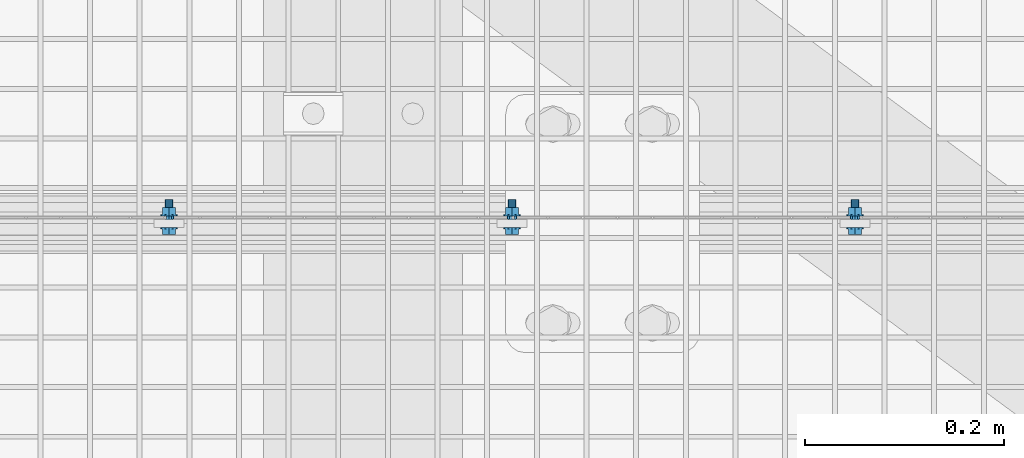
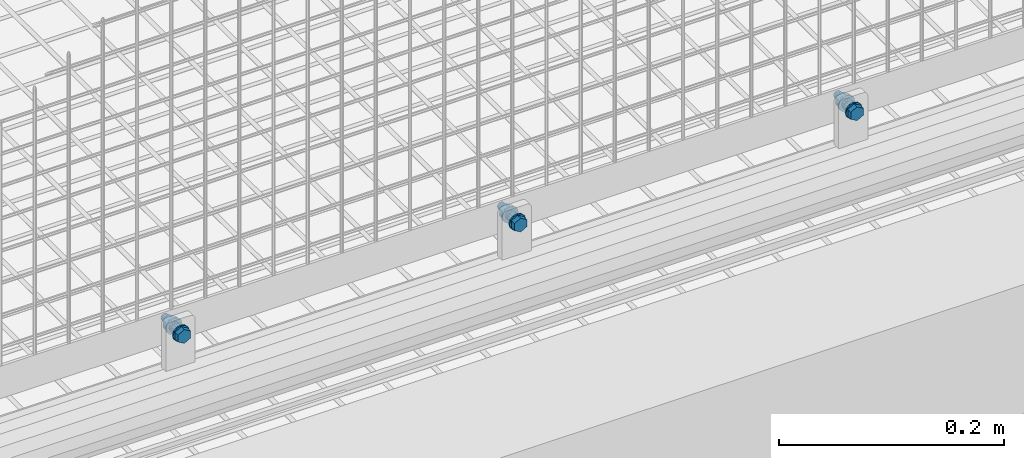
# One storey, part 71 of 1530: 3 mechanical fasteners.
"""IFC2X3 building model written with IfcOpenShell, lengths in millimetres."""

from ifc_helpers import new_model, si_unit, frame, origin_with_axes, place, context, subcontext, project, spatial, faceted_brep, source, transform, mapped, material, type_object, element, save


model = new_model("IFC2X3")

# Units and contexts
model_context = context("Model", 3, precision=1e-05, world=origin_with_axes())
body_context = subcontext(model_context, "Body", "Model", "MODEL_VIEW")
ifc_project = project(units=[si_unit("LENGTHUNIT", "METRE", prefix="MILLI"), si_unit("AREAUNIT", "SQUARE_METRE"), si_unit("VOLUMEUNIT", "CUBIC_METRE"), si_unit("MASSUNIT", "GRAM", prefix="KILO"), si_unit("TIMEUNIT", "SECOND"), si_unit("PLANEANGLEUNIT", "RADIAN"), si_unit("SOLIDANGLEUNIT", "STERADIAN"), si_unit("THERMODYNAMICTEMPERATUREUNIT", "DEGREE_CELSIUS"), si_unit("LUMINOUSINTENSITYUNIT", "LUMEN")], contexts=[model_context])

# Site, building, storey
site_placement = place(None, origin_with_axes())
site = spatial("IfcSite", under=ifc_project, at=site_placement, Name="Brattvåg", CompositionType="ELEMENT")
building_placement = place(site_placement, origin_with_axes())
building = spatial("IfcBuilding", under=site, at=building_placement, Name="Undefined", CompositionType="ELEMENT")
storey_placement = place(building_placement, origin_with_axes())
storey = spatial("IfcBuildingStorey", under=building, at=storey_placement, Name="Undefined", CompositionType="ELEMENT", Elevation=0.0)

# Mechanical fasteners
ifc_material = material(Name="8")
mechanical_fastener_type = type_object("IfcMechanicalFastenerType", Name="Bolt assembly")
shared_shape_1 = source(origin_with_axes(), body_context, "Body", "Brep", [
    faceted_brep([(7.50555349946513, -6.899000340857, 0.0), (3.75277674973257, -6.899000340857, 6.5), (-3.75277674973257, -6.899000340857, 6.5), (-7.50555349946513, -6.899000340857, 9.19165206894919e-16), (-3.75277674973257, -6.899000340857, -6.5), (3.75277674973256, -6.899000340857, -6.5), (3.75277674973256, -1.59900015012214, -6.5), (-3.75277674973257, -1.59900015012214, -6.5), (-7.50555349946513, -1.59900015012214, 9.19165206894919e-16), (-3.75277674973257, -1.59900015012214, 6.5), (3.75277674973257, -1.59900015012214, 6.5), (7.50555349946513, -1.59900015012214, 0.0), (4.0, -1.59900015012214, 0.0), (3.46410161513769, -1.59900015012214, 2.00000000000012), (1.99999999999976, -1.59900015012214, 3.46410161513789), (-4.14534392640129e-13, -1.59900015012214, 4.0), (-2.00000000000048, -1.59900015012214, 3.46410161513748), (-3.4641016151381, -1.59900015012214, 1.9999999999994), (-4.0, -1.59900015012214, -8.29068785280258e-13), (-3.46410161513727, -1.59900015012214, -2.00000000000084), (-1.99999999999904, -1.59900015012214, -3.46410161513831), (1.23916228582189e-12, -1.59900015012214, -4.0), (2.00000000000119, -1.59900015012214, -3.46410161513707), (3.46410161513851, -1.59900015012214, -1.99999999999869), (3.46410161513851, 28.4009998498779, -1.99999999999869), (2.00000000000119, 28.4009998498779, -3.46410161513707), (1.23916228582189e-12, 28.4009998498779, -4.0), (-1.99999999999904, 28.4009998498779, -3.46410161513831), (-3.46410161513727, 28.4009998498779, -2.00000000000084), (-4.0, 28.4009998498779, -8.29068785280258e-13), (-3.4641016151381, 28.4009998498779, 1.9999999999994), (-2.00000000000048, 28.4009998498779, 3.46410161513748), (-4.14534392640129e-13, 28.4009998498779, 4.0), (1.99999999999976, 28.4009998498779, 3.46410161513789), (3.46410161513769, 28.4009998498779, 2.00000000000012), (4.0, 28.4009998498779, 0.0), (8.5, -1.59900015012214, 0.0), (7.36121593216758, -1.59900015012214, 4.25000000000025), (4.24999999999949, -1.59900015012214, 7.36121593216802), (-8.80885584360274e-13, -1.59900015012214, 8.5), (-4.25000000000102, -1.59900015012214, 7.36121593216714), (-7.36121593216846, -1.59900015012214, 4.24999999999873), (-8.5, -1.59900015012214, -1.76177116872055e-12), (-7.3612159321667, -1.59900015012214, -4.25000000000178), (-4.24999999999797, -1.59900015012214, -7.3612159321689), (2.63321985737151e-12, -1.59900015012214, -8.5), (4.25000000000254, -1.59900015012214, -7.36121593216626), (7.36121593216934, -1.59900015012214, -4.24999999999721), (7.36121593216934, 0.000999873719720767, -4.24999999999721), (4.25000000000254, 0.000999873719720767, -7.36121593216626), (2.63321985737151e-12, 0.000999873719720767, -8.5), (-4.24999999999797, 0.000999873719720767, -7.3612159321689), (-7.3612159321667, 0.000999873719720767, -4.25000000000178), (-8.5, 0.000999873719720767, -1.76177116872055e-12), (-7.36121593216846, 0.000999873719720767, 4.24999999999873), (-4.25000000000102, 0.000999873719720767, 7.36121593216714), (-8.80885584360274e-13, 0.000999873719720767, 8.5), (4.24999999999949, 0.000999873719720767, 7.36121593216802), (7.36121593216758, 0.000999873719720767, 4.25000000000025), (8.5, 0.000999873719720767, 0.0), (8.5, 11.5039814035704, 0.0), (7.36121593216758, 11.5039814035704, 4.25000000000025), (4.24999999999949, 11.5039814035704, 7.36121593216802), (-8.80885584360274e-13, 11.5039814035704, 8.5), (-4.25000000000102, 11.5039814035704, 7.36121593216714), (-7.36121593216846, 11.5039814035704, 4.24999999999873), (-8.5, 11.5039814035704, -1.76177116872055e-12), (-7.3612159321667, 11.5039814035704, -4.25000000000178), (-4.24999999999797, 11.5039814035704, -7.3612159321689), (2.63321985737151e-12, 11.5039814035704, -8.5), (4.25000000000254, 11.5039814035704, -7.36121593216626), (7.36121593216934, 11.5039814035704, -4.24999999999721), (7.36121593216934, 13.1039814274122, -4.24999999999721), (4.25000000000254, 13.1039814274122, -7.36121593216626), (2.63321985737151e-12, 13.1039814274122, -8.5), (-4.24999999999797, 13.1039814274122, -7.3612159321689), (-7.3612159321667, 13.1039814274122, -4.25000000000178), (-8.5, 13.1039814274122, -1.76177116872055e-12), (-7.36121593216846, 13.1039814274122, 4.24999999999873), (-4.25000000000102, 13.1039814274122, 7.36121593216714), (-8.80885584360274e-13, 13.1039814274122, 8.5), (4.24999999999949, 13.1039814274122, 7.36121593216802), (7.36121593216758, 13.1039814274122, 4.25000000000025), (8.5, 13.1039814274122, 0.0), (7.50555349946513, 13.1039814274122, 0.0), (3.75277674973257, 13.1039814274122, 6.5), (-3.75277674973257, 13.1039814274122, 6.5), (-7.50555349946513, 13.1039814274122, 9.19165206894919e-16), (-3.75277674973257, 13.1039814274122, -6.5), (3.75277674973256, 13.1039814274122, -6.5), (3.75277674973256, 19.9039816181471, -6.5), (-3.75277674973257, 19.9039816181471, -6.5), (-7.50555349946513, 19.9039816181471, 9.19165206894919e-16), (-3.75277674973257, 19.9039816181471, 6.5), (3.75277674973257, 19.9039816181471, 6.5), (7.50555349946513, 19.9039816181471, 0.0)], [[[0, 1, 2, 3, 4, 5]], [[6, 7, 8, 9, 10, 11]], [[0, 11, 10, 1]], [[1, 10, 9, 2]], [[2, 9, 8, 3]], [[3, 8, 7, 4]], [[4, 7, 6, 5]], [[5, 6, 11, 0]], [[12, 13, 14, 15, 16, 17, 18, 19, 20, 21, 22, 23]], [[24, 25, 26, 27, 28, 29, 30, 31, 32, 33, 34, 35]], [[12, 35, 34, 13]], [[13, 34, 33, 14]], [[14, 33, 32, 15]], [[15, 32, 31, 16]], [[16, 31, 30, 17]], [[17, 30, 29, 18]], [[18, 29, 28, 19]], [[19, 28, 27, 20]], [[20, 27, 26, 21]], [[21, 26, 25, 22]], [[22, 25, 24, 23]], [[23, 24, 35, 12]], [[36, 37, 38, 39, 40, 41, 42, 43, 44, 45, 46, 47]], [[48, 49, 50, 51, 52, 53, 54, 55, 56, 57, 58, 59]], [[36, 59, 58, 37]], [[37, 58, 57, 38]], [[38, 57, 56, 39]], [[39, 56, 55, 40]], [[40, 55, 54, 41]], [[41, 54, 53, 42]], [[42, 53, 52, 43]], [[43, 52, 51, 44]], [[44, 51, 50, 45]], [[45, 50, 49, 46]], [[46, 49, 48, 47]], [[47, 48, 59, 36]], [[60, 61, 62, 63, 64, 65, 66, 67, 68, 69, 70, 71]], [[72, 73, 74, 75, 76, 77, 78, 79, 80, 81, 82, 83]], [[60, 83, 82, 61]], [[61, 82, 81, 62]], [[62, 81, 80, 63]], [[63, 80, 79, 64]], [[64, 79, 78, 65]], [[65, 78, 77, 66]], [[66, 77, 76, 67]], [[67, 76, 75, 68]], [[68, 75, 74, 69]], [[69, 74, 73, 70]], [[70, 73, 72, 71]], [[71, 72, 83, 60]], [[84, 85, 86, 87, 88, 89]], [[90, 91, 92, 93, 94, 95]], [[84, 95, 94, 85]], [[85, 94, 93, 86]], [[86, 93, 92, 87]], [[87, 92, 91, 88]], [[88, 91, 90, 89]], [[89, 90, 95, 84]]]),
    faceted_brep([(5.0, 0.100999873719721, 0.0), (4.33012701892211, 0.100999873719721, 2.50000000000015), (2.4999999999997, 0.100999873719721, 4.33012701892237), (-5.18167990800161e-13, 0.100999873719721, 5.0), (-2.5000000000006, 0.100999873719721, 4.33012701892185), (-4.33012701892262, 0.100999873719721, 2.49999999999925), (-5.0, 0.100999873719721, -1.03633598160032e-12), (-4.33012701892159, 0.100999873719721, -2.50000000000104), (-2.49999999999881, 0.100999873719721, -4.33012701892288), (1.54895285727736e-12, 0.100999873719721, -5.0), (2.50000000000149, 0.100999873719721, -4.33012701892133), (4.33012701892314, 0.100999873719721, -2.49999999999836), (4.33012701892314, 8.10099988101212, -2.49999999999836), (2.50000000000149, 8.10099988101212, -4.33012701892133), (1.54895285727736e-12, 8.10099988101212, -5.0), (-2.49999999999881, 8.10099988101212, -4.33012701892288), (-4.33012701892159, 8.10099988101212, -2.50000000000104), (-5.0, 8.10099988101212, -1.03633598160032e-12), (-4.33012701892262, 8.10099988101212, 2.49999999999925), (-2.5000000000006, 8.10099988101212, 4.33012701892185), (-5.18167990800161e-13, 8.10099988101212, 5.0), (2.4999999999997, 8.10099988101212, 4.33012701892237), (4.33012701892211, 8.10099988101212, 2.50000000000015), (5.0, 8.10099988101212, 0.0), (5.0, 8.40398140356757, 0.0), (4.33012701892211, 8.40398140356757, 2.50000000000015), (2.4999999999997, 8.40398140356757, 4.33012701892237), (-5.18167990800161e-13, 8.40398140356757, 5.0), (-2.5000000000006, 8.40398140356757, 4.33012701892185), (-4.33012701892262, 8.40398140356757, 2.49999999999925), (-5.0, 8.40398140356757, -1.03633598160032e-12), (-4.33012701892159, 8.40398140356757, -2.50000000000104), (-2.49999999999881, 8.40398140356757, -4.33012701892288), (1.54895285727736e-12, 8.40398140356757, -5.0), (2.50000000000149, 8.40398140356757, -4.33012701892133), (4.33012701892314, 8.40398140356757, -2.49999999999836), (4.33012701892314, 11.5039814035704, -2.49999999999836), (2.50000000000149, 11.5039814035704, -4.33012701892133), (1.54895285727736e-12, 11.5039814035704, -5.0), (-2.49999999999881, 11.5039814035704, -4.33012701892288), (-4.33012701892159, 11.5039814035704, -2.50000000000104), (-5.0, 11.5039814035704, -1.03633598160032e-12), (-4.33012701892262, 11.5039814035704, 2.49999999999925), (-2.5000000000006, 11.5039814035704, 4.33012701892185), (-5.18167990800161e-13, 11.5039814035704, 5.0), (2.4999999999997, 11.5039814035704, 4.33012701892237), (4.33012701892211, 11.5039814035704, 2.50000000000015), (5.0, 11.5039814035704, 0.0)], [[[0, 1, 2, 3, 4, 5, 6, 7, 8, 9, 10, 11]], [[12, 13, 14, 15, 16, 17, 18, 19, 20, 21, 22, 23]], [[0, 23, 22, 1]], [[1, 22, 21, 2]], [[2, 21, 20, 3]], [[3, 20, 19, 4]], [[4, 19, 18, 5]], [[5, 18, 17, 6]], [[6, 17, 16, 7]], [[7, 16, 15, 8]], [[8, 15, 14, 9]], [[9, 14, 13, 10]], [[10, 13, 12, 11]], [[11, 12, 23, 0]], [[24, 25, 26, 27, 28, 29, 30, 31, 32, 33, 34, 35]], [[36, 37, 38, 39, 40, 41, 42, 43, 44, 45, 46, 47]], [[24, 47, 46, 25]], [[25, 46, 45, 26]], [[26, 45, 44, 27]], [[27, 44, 43, 28]], [[28, 43, 42, 29]], [[29, 42, 41, 30]], [[30, 41, 40, 31]], [[31, 40, 39, 32]], [[32, 39, 38, 33]], [[33, 38, 37, 34]], [[34, 37, 36, 35]], [[35, 36, 47, 24]]]),
])
mechanical_fastener_1_placement = place(storey_placement, frame((1075.85076141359, 7660.49843978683, 352.299672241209), z_axis=(-1.0, 1.99999855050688e-09, 0.0), x_axis=(0.0, 0.0, 1.0)))
element("IfcMechanicalFastener", 1, at=mechanical_fastener_1_placement, inside=storey, type_object=mechanical_fastener_type, material=ifc_material, Name="Bolt assembly", NominalDiameter=8.0, NominalLength=30.0, context=body_context, shape_type="MappedRepresentation", body=[
    mapped(shared_shape_1, transform((0.0, 0.0, 0.0))),
])
shared_shape_2 = source(origin_with_axes(), body_context, "Body", "Brep", [
    faceted_brep([(7.50555349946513, -6.899000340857, 0.0), (3.75277674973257, -6.899000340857, 6.5), (-3.75277674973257, -6.899000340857, 6.5), (-7.50555349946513, -6.899000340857, 9.19165206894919e-16), (-3.75277674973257, -6.899000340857, -6.5), (3.75277674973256, -6.899000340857, -6.5), (3.75277674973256, -1.59900015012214, -6.5), (-3.75277674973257, -1.59900015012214, -6.5), (-7.50555349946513, -1.59900015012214, 9.19165206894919e-16), (-3.75277674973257, -1.59900015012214, 6.5), (3.75277674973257, -1.59900015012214, 6.5), (7.50555349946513, -1.59900015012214, 0.0), (4.0, -1.59900015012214, 0.0), (3.46410161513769, -1.59900015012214, 2.00000000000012), (1.99999999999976, -1.59900015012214, 3.46410161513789), (-4.14534392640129e-13, -1.59900015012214, 4.0), (-2.00000000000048, -1.59900015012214, 3.46410161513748), (-3.4641016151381, -1.59900015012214, 1.9999999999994), (-4.0, -1.59900015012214, -8.29068785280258e-13), (-3.46410161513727, -1.59900015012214, -2.00000000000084), (-1.99999999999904, -1.59900015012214, -3.46410161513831), (1.23916228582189e-12, -1.59900015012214, -4.0), (2.00000000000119, -1.59900015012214, -3.46410161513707), (3.46410161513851, -1.59900015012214, -1.99999999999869), (3.46410161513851, 28.4009998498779, -1.99999999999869), (2.00000000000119, 28.4009998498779, -3.46410161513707), (1.23916228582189e-12, 28.4009998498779, -4.0), (-1.99999999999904, 28.4009998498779, -3.46410161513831), (-3.46410161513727, 28.4009998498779, -2.00000000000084), (-4.0, 28.4009998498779, -8.29068785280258e-13), (-3.4641016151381, 28.4009998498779, 1.9999999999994), (-2.00000000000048, 28.4009998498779, 3.46410161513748), (-4.14534392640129e-13, 28.4009998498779, 4.0), (1.99999999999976, 28.4009998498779, 3.46410161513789), (3.46410161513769, 28.4009998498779, 2.00000000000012), (4.0, 28.4009998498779, 0.0), (8.5, -1.59900015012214, 0.0), (7.36121593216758, -1.59900015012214, 4.25000000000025), (4.24999999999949, -1.59900015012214, 7.36121593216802), (-8.80885584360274e-13, -1.59900015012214, 8.5), (-4.25000000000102, -1.59900015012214, 7.36121593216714), (-7.36121593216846, -1.59900015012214, 4.24999999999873), (-8.5, -1.59900015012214, -1.76177116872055e-12), (-7.3612159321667, -1.59900015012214, -4.25000000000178), (-4.24999999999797, -1.59900015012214, -7.3612159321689), (2.63321985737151e-12, -1.59900015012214, -8.5), (4.25000000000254, -1.59900015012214, -7.36121593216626), (7.36121593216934, -1.59900015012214, -4.24999999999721), (7.36121593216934, 0.000999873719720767, -4.24999999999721), (4.25000000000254, 0.000999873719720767, -7.36121593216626), (2.63321985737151e-12, 0.000999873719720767, -8.5), (-4.24999999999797, 0.000999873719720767, -7.3612159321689), (-7.3612159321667, 0.000999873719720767, -4.25000000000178), (-8.5, 0.000999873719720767, -1.76177116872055e-12), (-7.36121593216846, 0.000999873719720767, 4.24999999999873), (-4.25000000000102, 0.000999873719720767, 7.36121593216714), (-8.80885584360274e-13, 0.000999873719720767, 8.5), (4.24999999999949, 0.000999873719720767, 7.36121593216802), (7.36121593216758, 0.000999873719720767, 4.25000000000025), (8.5, 0.000999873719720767, 0.0), (8.5, 11.5035404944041, 0.0), (7.36121593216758, 11.5035404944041, 4.25000000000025), (4.24999999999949, 11.5035404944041, 7.36121593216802), (-8.80885584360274e-13, 11.5035404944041, 8.5), (-4.25000000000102, 11.5035404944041, 7.36121593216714), (-7.36121593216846, 11.5035404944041, 4.24999999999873), (-8.5, 11.5035404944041, -1.76177116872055e-12), (-7.3612159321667, 11.5035404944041, -4.25000000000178), (-4.24999999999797, 11.5035404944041, -7.3612159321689), (2.63321985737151e-12, 11.5035404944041, -8.5), (4.25000000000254, 11.5035404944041, -7.36121593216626), (7.36121593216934, 11.5035404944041, -4.24999999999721), (7.36121593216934, 13.1035405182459, -4.24999999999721), (4.25000000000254, 13.1035405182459, -7.36121593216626), (2.63321985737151e-12, 13.1035405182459, -8.5), (-4.24999999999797, 13.1035405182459, -7.3612159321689), (-7.3612159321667, 13.1035405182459, -4.25000000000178), (-8.5, 13.1035405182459, -1.76177116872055e-12), (-7.36121593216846, 13.1035405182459, 4.24999999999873), (-4.25000000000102, 13.1035405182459, 7.36121593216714), (-8.80885584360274e-13, 13.1035405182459, 8.5), (4.24999999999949, 13.1035405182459, 7.36121593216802), (7.36121593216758, 13.1035405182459, 4.25000000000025), (8.5, 13.1035405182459, 0.0), (7.50555349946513, 13.1035405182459, 0.0), (3.75277674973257, 13.1035405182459, 6.5), (-3.75277674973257, 13.1035405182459, 6.5), (-7.50555349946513, 13.1035405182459, 9.19165206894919e-16), (-3.75277674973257, 13.1035405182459, -6.5), (3.75277674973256, 13.1035405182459, -6.5), (3.75277674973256, 19.9035407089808, -6.5), (-3.75277674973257, 19.9035407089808, -6.5), (-7.50555349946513, 19.9035407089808, 9.19165206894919e-16), (-3.75277674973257, 19.9035407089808, 6.5), (3.75277674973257, 19.9035407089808, 6.5), (7.50555349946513, 19.9035407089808, 0.0)], [[[0, 1, 2, 3, 4, 5]], [[6, 7, 8, 9, 10, 11]], [[0, 11, 10, 1]], [[1, 10, 9, 2]], [[2, 9, 8, 3]], [[3, 8, 7, 4]], [[4, 7, 6, 5]], [[5, 6, 11, 0]], [[12, 13, 14, 15, 16, 17, 18, 19, 20, 21, 22, 23]], [[24, 25, 26, 27, 28, 29, 30, 31, 32, 33, 34, 35]], [[12, 35, 34, 13]], [[13, 34, 33, 14]], [[14, 33, 32, 15]], [[15, 32, 31, 16]], [[16, 31, 30, 17]], [[17, 30, 29, 18]], [[18, 29, 28, 19]], [[19, 28, 27, 20]], [[20, 27, 26, 21]], [[21, 26, 25, 22]], [[22, 25, 24, 23]], [[23, 24, 35, 12]], [[36, 37, 38, 39, 40, 41, 42, 43, 44, 45, 46, 47]], [[48, 49, 50, 51, 52, 53, 54, 55, 56, 57, 58, 59]], [[36, 59, 58, 37]], [[37, 58, 57, 38]], [[38, 57, 56, 39]], [[39, 56, 55, 40]], [[40, 55, 54, 41]], [[41, 54, 53, 42]], [[42, 53, 52, 43]], [[43, 52, 51, 44]], [[44, 51, 50, 45]], [[45, 50, 49, 46]], [[46, 49, 48, 47]], [[47, 48, 59, 36]], [[60, 61, 62, 63, 64, 65, 66, 67, 68, 69, 70, 71]], [[72, 73, 74, 75, 76, 77, 78, 79, 80, 81, 82, 83]], [[60, 83, 82, 61]], [[61, 82, 81, 62]], [[62, 81, 80, 63]], [[63, 80, 79, 64]], [[64, 79, 78, 65]], [[65, 78, 77, 66]], [[66, 77, 76, 67]], [[67, 76, 75, 68]], [[68, 75, 74, 69]], [[69, 74, 73, 70]], [[70, 73, 72, 71]], [[71, 72, 83, 60]], [[84, 85, 86, 87, 88, 89]], [[90, 91, 92, 93, 94, 95]], [[84, 95, 94, 85]], [[85, 94, 93, 86]], [[86, 93, 92, 87]], [[87, 92, 91, 88]], [[88, 91, 90, 89]], [[89, 90, 95, 84]]]),
    faceted_brep([(5.0, 0.100999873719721, 0.0), (4.33012701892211, 0.100999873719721, 2.50000000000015), (2.4999999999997, 0.100999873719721, 4.33012701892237), (-5.18167990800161e-13, 0.100999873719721, 5.0), (-2.5000000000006, 0.100999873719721, 4.33012701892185), (-4.33012701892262, 0.100999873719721, 2.49999999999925), (-5.0, 0.100999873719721, -1.03633598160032e-12), (-4.33012701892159, 0.100999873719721, -2.50000000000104), (-2.49999999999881, 0.100999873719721, -4.33012701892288), (1.54895285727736e-12, 0.100999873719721, -5.0), (2.50000000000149, 0.100999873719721, -4.33012701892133), (4.33012701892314, 0.100999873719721, -2.49999999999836), (4.33012701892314, 8.10099988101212, -2.49999999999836), (2.50000000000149, 8.10099988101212, -4.33012701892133), (1.54895285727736e-12, 8.10099988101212, -5.0), (-2.49999999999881, 8.10099988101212, -4.33012701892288), (-4.33012701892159, 8.10099988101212, -2.50000000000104), (-5.0, 8.10099988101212, -1.03633598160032e-12), (-4.33012701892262, 8.10099988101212, 2.49999999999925), (-2.5000000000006, 8.10099988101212, 4.33012701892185), (-5.18167990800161e-13, 8.10099988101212, 5.0), (2.4999999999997, 8.10099988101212, 4.33012701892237), (4.33012701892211, 8.10099988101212, 2.50000000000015), (5.0, 8.10099988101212, 0.0), (5.0, 8.40354049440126, 0.0), (4.33012701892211, 8.40354049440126, 2.50000000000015), (2.4999999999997, 8.40354049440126, 4.33012701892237), (-5.18167990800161e-13, 8.40354049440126, 5.0), (-2.5000000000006, 8.40354049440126, 4.33012701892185), (-4.33012701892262, 8.40354049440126, 2.49999999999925), (-5.0, 8.40354049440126, -1.03633598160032e-12), (-4.33012701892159, 8.40354049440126, -2.50000000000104), (-2.49999999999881, 8.40354049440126, -4.33012701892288), (1.54895285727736e-12, 8.40354049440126, -5.0), (2.50000000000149, 8.40354049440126, -4.33012701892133), (4.33012701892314, 8.40354049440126, -2.49999999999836), (4.33012701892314, 11.5035404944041, -2.49999999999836), (2.50000000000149, 11.5035404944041, -4.33012701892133), (1.54895285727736e-12, 11.5035404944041, -5.0), (-2.49999999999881, 11.5035404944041, -4.33012701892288), (-4.33012701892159, 11.5035404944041, -2.50000000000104), (-5.0, 11.5035404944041, -1.03633598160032e-12), (-4.33012701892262, 11.5035404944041, 2.49999999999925), (-2.5000000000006, 11.5035404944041, 4.33012701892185), (-5.18167990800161e-13, 11.5035404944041, 5.0), (2.4999999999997, 11.5035404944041, 4.33012701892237), (4.33012701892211, 11.5035404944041, 2.50000000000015), (5.0, 11.5035404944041, 0.0)], [[[0, 1, 2, 3, 4, 5, 6, 7, 8, 9, 10, 11]], [[12, 13, 14, 15, 16, 17, 18, 19, 20, 21, 22, 23]], [[0, 23, 22, 1]], [[1, 22, 21, 2]], [[2, 21, 20, 3]], [[3, 20, 19, 4]], [[4, 19, 18, 5]], [[5, 18, 17, 6]], [[6, 17, 16, 7]], [[7, 16, 15, 8]], [[8, 15, 14, 9]], [[9, 14, 13, 10]], [[10, 13, 12, 11]], [[11, 12, 23, 0]], [[24, 25, 26, 27, 28, 29, 30, 31, 32, 33, 34, 35]], [[36, 37, 38, 39, 40, 41, 42, 43, 44, 45, 46, 47]], [[24, 47, 46, 25]], [[25, 46, 45, 26]], [[26, 45, 44, 27]], [[27, 44, 43, 28]], [[28, 43, 42, 29]], [[29, 42, 41, 30]], [[30, 41, 40, 31]], [[31, 40, 39, 32]], [[32, 39, 38, 33]], [[33, 38, 37, 34]], [[34, 37, 36, 35]], [[35, 36, 47, 24]]]),
])
mechanical_fastener_2_placement = place(storey_placement, frame((1420.85007476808, 7660.49843978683, 352.299672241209), z_axis=(-1.0, 1.99999855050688e-09, 0.0), x_axis=(0.0, 0.0, 1.0)))
element("IfcMechanicalFastener", 2, at=mechanical_fastener_2_placement, inside=storey, type_object=mechanical_fastener_type, material=ifc_material, Name="Bolt assembly", NominalDiameter=8.0, NominalLength=30.0, context=body_context, shape_type="MappedRepresentation", body=[
    mapped(shared_shape_2, transform((0.0, 0.0, 0.0))),
])
shared_shape_3 = source(origin_with_axes(), body_context, "Body", "Brep", [
    faceted_brep([(7.50555349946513, -6.899000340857, 0.0), (3.75277674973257, -6.899000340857, 6.5), (-3.75277674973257, -6.899000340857, 6.5), (-7.50555349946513, -6.899000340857, 9.19165206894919e-16), (-3.75277674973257, -6.899000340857, -6.5), (3.75277674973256, -6.899000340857, -6.5), (3.75277674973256, -1.59900015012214, -6.5), (-3.75277674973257, -1.59900015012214, -6.5), (-7.50555349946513, -1.59900015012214, 9.19165206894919e-16), (-3.75277674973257, -1.59900015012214, 6.5), (3.75277674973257, -1.59900015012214, 6.5), (7.50555349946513, -1.59900015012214, 0.0), (4.0, -1.59900015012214, 0.0), (3.46410161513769, -1.59900015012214, 2.00000000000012), (1.99999999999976, -1.59900015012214, 3.46410161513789), (-4.14534392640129e-13, -1.59900015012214, 4.0), (-2.00000000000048, -1.59900015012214, 3.46410161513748), (-3.4641016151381, -1.59900015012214, 1.9999999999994), (-4.0, -1.59900015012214, -8.29068785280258e-13), (-3.46410161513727, -1.59900015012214, -2.00000000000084), (-1.99999999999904, -1.59900015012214, -3.46410161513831), (1.23916228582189e-12, -1.59900015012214, -4.0), (2.00000000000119, -1.59900015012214, -3.46410161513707), (3.46410161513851, -1.59900015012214, -1.99999999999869), (3.46410161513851, 28.4009998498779, -1.99999999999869), (2.00000000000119, 28.4009998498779, -3.46410161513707), (1.23916228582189e-12, 28.4009998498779, -4.0), (-1.99999999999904, 28.4009998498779, -3.46410161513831), (-3.46410161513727, 28.4009998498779, -2.00000000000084), (-4.0, 28.4009998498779, -8.29068785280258e-13), (-3.4641016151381, 28.4009998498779, 1.9999999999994), (-2.00000000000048, 28.4009998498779, 3.46410161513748), (-4.14534392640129e-13, 28.4009998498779, 4.0), (1.99999999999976, 28.4009998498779, 3.46410161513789), (3.46410161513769, 28.4009998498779, 2.00000000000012), (4.0, 28.4009998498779, 0.0), (8.5, -1.59900015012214, 0.0), (7.36121593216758, -1.59900015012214, 4.25000000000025), (4.24999999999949, -1.59900015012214, 7.36121593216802), (-8.80885584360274e-13, -1.59900015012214, 8.5), (-4.25000000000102, -1.59900015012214, 7.36121593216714), (-7.36121593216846, -1.59900015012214, 4.24999999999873), (-8.5, -1.59900015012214, -1.76177116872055e-12), (-7.3612159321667, -1.59900015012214, -4.25000000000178), (-4.24999999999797, -1.59900015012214, -7.3612159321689), (2.63321985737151e-12, -1.59900015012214, -8.5), (4.25000000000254, -1.59900015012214, -7.36121593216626), (7.36121593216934, -1.59900015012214, -4.24999999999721), (7.36121593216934, 0.000999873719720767, -4.24999999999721), (4.25000000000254, 0.000999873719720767, -7.36121593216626), (2.63321985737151e-12, 0.000999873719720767, -8.5), (-4.24999999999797, 0.000999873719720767, -7.3612159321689), (-7.3612159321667, 0.000999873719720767, -4.25000000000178), (-8.5, 0.000999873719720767, -1.76177116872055e-12), (-7.36121593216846, 0.000999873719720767, 4.24999999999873), (-4.25000000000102, 0.000999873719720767, 7.36121593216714), (-8.80885584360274e-13, 0.000999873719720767, 8.5), (4.24999999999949, 0.000999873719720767, 7.36121593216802), (7.36121593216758, 0.000999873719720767, 4.25000000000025), (8.5, 0.000999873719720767, 0.0), (8.5, 11.5030995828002, 0.0), (7.36121593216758, 11.5030995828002, 4.25000000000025), (4.24999999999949, 11.5030995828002, 7.36121593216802), (-8.80885584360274e-13, 11.5030995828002, 8.5), (-4.25000000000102, 11.5030995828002, 7.36121593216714), (-7.36121593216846, 11.5030995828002, 4.24999999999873), (-8.5, 11.5030995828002, -1.76177116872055e-12), (-7.3612159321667, 11.5030995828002, -4.25000000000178), (-4.24999999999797, 11.5030995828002, -7.3612159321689), (2.63321985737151e-12, 11.5030995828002, -8.5), (4.25000000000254, 11.5030995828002, -7.36121593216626), (7.36121593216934, 11.5030995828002, -4.24999999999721), (7.36121593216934, 13.1030996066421, -4.24999999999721), (4.25000000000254, 13.1030996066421, -7.36121593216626), (2.63321985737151e-12, 13.1030996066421, -8.5), (-4.24999999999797, 13.1030996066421, -7.3612159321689), (-7.3612159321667, 13.1030996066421, -4.25000000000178), (-8.5, 13.1030996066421, -1.76177116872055e-12), (-7.36121593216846, 13.1030996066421, 4.24999999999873), (-4.25000000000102, 13.1030996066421, 7.36121593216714), (-8.80885584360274e-13, 13.1030996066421, 8.5), (4.24999999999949, 13.1030996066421, 7.36121593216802), (7.36121593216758, 13.1030996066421, 4.25000000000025), (8.5, 13.1030996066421, 0.0), (7.50555349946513, 13.1030996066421, 0.0), (3.75277674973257, 13.1030996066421, 6.5), (-3.75277674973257, 13.1030996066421, 6.5), (-7.50555349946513, 13.1030996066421, 9.19165206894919e-16), (-3.75277674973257, 13.1030996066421, -6.5), (3.75277674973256, 13.1030996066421, -6.5), (3.75277674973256, 19.9030997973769, -6.5), (-3.75277674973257, 19.9030997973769, -6.5), (-7.50555349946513, 19.9030997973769, 9.19165206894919e-16), (-3.75277674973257, 19.9030997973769, 6.5), (3.75277674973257, 19.9030997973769, 6.5), (7.50555349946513, 19.9030997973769, 0.0)], [[[0, 1, 2, 3, 4, 5]], [[6, 7, 8, 9, 10, 11]], [[0, 11, 10, 1]], [[1, 10, 9, 2]], [[2, 9, 8, 3]], [[3, 8, 7, 4]], [[4, 7, 6, 5]], [[5, 6, 11, 0]], [[12, 13, 14, 15, 16, 17, 18, 19, 20, 21, 22, 23]], [[24, 25, 26, 27, 28, 29, 30, 31, 32, 33, 34, 35]], [[12, 35, 34, 13]], [[13, 34, 33, 14]], [[14, 33, 32, 15]], [[15, 32, 31, 16]], [[16, 31, 30, 17]], [[17, 30, 29, 18]], [[18, 29, 28, 19]], [[19, 28, 27, 20]], [[20, 27, 26, 21]], [[21, 26, 25, 22]], [[22, 25, 24, 23]], [[23, 24, 35, 12]], [[36, 37, 38, 39, 40, 41, 42, 43, 44, 45, 46, 47]], [[48, 49, 50, 51, 52, 53, 54, 55, 56, 57, 58, 59]], [[36, 59, 58, 37]], [[37, 58, 57, 38]], [[38, 57, 56, 39]], [[39, 56, 55, 40]], [[40, 55, 54, 41]], [[41, 54, 53, 42]], [[42, 53, 52, 43]], [[43, 52, 51, 44]], [[44, 51, 50, 45]], [[45, 50, 49, 46]], [[46, 49, 48, 47]], [[47, 48, 59, 36]], [[60, 61, 62, 63, 64, 65, 66, 67, 68, 69, 70, 71]], [[72, 73, 74, 75, 76, 77, 78, 79, 80, 81, 82, 83]], [[60, 83, 82, 61]], [[61, 82, 81, 62]], [[62, 81, 80, 63]], [[63, 80, 79, 64]], [[64, 79, 78, 65]], [[65, 78, 77, 66]], [[66, 77, 76, 67]], [[67, 76, 75, 68]], [[68, 75, 74, 69]], [[69, 74, 73, 70]], [[70, 73, 72, 71]], [[71, 72, 83, 60]], [[84, 85, 86, 87, 88, 89]], [[90, 91, 92, 93, 94, 95]], [[84, 95, 94, 85]], [[85, 94, 93, 86]], [[86, 93, 92, 87]], [[87, 92, 91, 88]], [[88, 91, 90, 89]], [[89, 90, 95, 84]]]),
    faceted_brep([(5.0, 0.100999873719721, 0.0), (4.33012701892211, 0.100999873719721, 2.50000000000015), (2.4999999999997, 0.100999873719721, 4.33012701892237), (-5.18167990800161e-13, 0.100999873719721, 5.0), (-2.5000000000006, 0.100999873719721, 4.33012701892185), (-4.33012701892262, 0.100999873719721, 2.49999999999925), (-5.0, 0.100999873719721, -1.03633598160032e-12), (-4.33012701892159, 0.100999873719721, -2.50000000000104), (-2.49999999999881, 0.100999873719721, -4.33012701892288), (1.54895285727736e-12, 0.100999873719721, -5.0), (2.50000000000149, 0.100999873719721, -4.33012701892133), (4.33012701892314, 0.100999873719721, -2.49999999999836), (4.33012701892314, 8.10099988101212, -2.49999999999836), (2.50000000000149, 8.10099988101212, -4.33012701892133), (1.54895285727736e-12, 8.10099988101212, -5.0), (-2.49999999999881, 8.10099988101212, -4.33012701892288), (-4.33012701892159, 8.10099988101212, -2.50000000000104), (-5.0, 8.10099988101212, -1.03633598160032e-12), (-4.33012701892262, 8.10099988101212, 2.49999999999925), (-2.5000000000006, 8.10099988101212, 4.33012701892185), (-5.18167990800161e-13, 8.10099988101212, 5.0), (2.4999999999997, 8.10099988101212, 4.33012701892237), (4.33012701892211, 8.10099988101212, 2.50000000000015), (5.0, 8.10099988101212, 0.0), (5.0, 8.40309958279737, 0.0), (4.33012701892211, 8.40309958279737, 2.50000000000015), (2.4999999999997, 8.40309958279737, 4.33012701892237), (-5.18167990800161e-13, 8.40309958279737, 5.0), (-2.5000000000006, 8.40309958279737, 4.33012701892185), (-4.33012701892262, 8.40309958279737, 2.49999999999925), (-5.0, 8.40309958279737, -1.03633598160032e-12), (-4.33012701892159, 8.40309958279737, -2.50000000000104), (-2.49999999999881, 8.40309958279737, -4.33012701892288), (1.54895285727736e-12, 8.40309958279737, -5.0), (2.50000000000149, 8.40309958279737, -4.33012701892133), (4.33012701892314, 8.40309958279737, -2.49999999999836), (4.33012701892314, 11.5030995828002, -2.49999999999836), (2.50000000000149, 11.5030995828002, -4.33012701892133), (1.54895285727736e-12, 11.5030995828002, -5.0), (-2.49999999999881, 11.5030995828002, -4.33012701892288), (-4.33012701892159, 11.5030995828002, -2.50000000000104), (-5.0, 11.5030995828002, -1.03633598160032e-12), (-4.33012701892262, 11.5030995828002, 2.49999999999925), (-2.5000000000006, 11.5030995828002, 4.33012701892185), (-5.18167990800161e-13, 11.5030995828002, 5.0), (2.4999999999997, 11.5030995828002, 4.33012701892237), (4.33012701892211, 11.5030995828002, 2.50000000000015), (5.0, 11.5030995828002, 0.0)], [[[0, 1, 2, 3, 4, 5, 6, 7, 8, 9, 10, 11]], [[12, 13, 14, 15, 16, 17, 18, 19, 20, 21, 22, 23]], [[0, 23, 22, 1]], [[1, 22, 21, 2]], [[2, 21, 20, 3]], [[3, 20, 19, 4]], [[4, 19, 18, 5]], [[5, 18, 17, 6]], [[6, 17, 16, 7]], [[7, 16, 15, 8]], [[8, 15, 14, 9]], [[9, 14, 13, 10]], [[10, 13, 12, 11]], [[11, 12, 23, 0]], [[24, 25, 26, 27, 28, 29, 30, 31, 32, 33, 34, 35]], [[36, 37, 38, 39, 40, 41, 42, 43, 44, 45, 46, 47]], [[24, 47, 46, 25]], [[25, 46, 45, 26]], [[26, 45, 44, 27]], [[27, 44, 43, 28]], [[28, 43, 42, 29]], [[29, 42, 41, 30]], [[30, 41, 40, 31]], [[31, 40, 39, 32]], [[32, 39, 38, 33]], [[33, 38, 37, 34]], [[34, 37, 36, 35]], [[35, 36, 47, 24]]]),
])
mechanical_fastener_3_placement = place(storey_placement, frame((1765.8512954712, 7660.49843978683, 352.299672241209), z_axis=(-1.0, 1.99999855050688e-09, 0.0), x_axis=(0.0, 0.0, 1.0)))
element("IfcMechanicalFastener", 3, at=mechanical_fastener_3_placement, inside=storey, type_object=mechanical_fastener_type, material=ifc_material, Name="Bolt assembly", NominalDiameter=8.0, NominalLength=30.0, context=body_context, shape_type="MappedRepresentation", body=[
    mapped(shared_shape_3, transform((0.0, 0.0, 0.0))),
])

save(model, "model.ifc")
